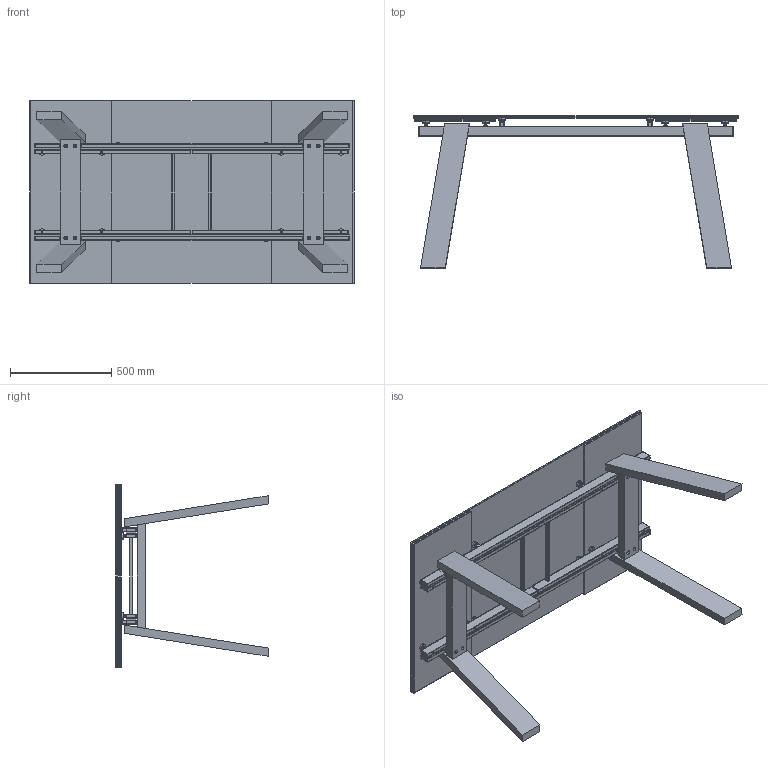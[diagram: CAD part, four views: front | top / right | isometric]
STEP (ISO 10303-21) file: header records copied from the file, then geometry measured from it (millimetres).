
FILE_DESCRIPTION (( 'STEP AP214' ), '1' );
FILE_NAME ('GIOVE.STEP', '2021-03-15T08:42:52', ( '' ), ( '' ), 'SwSTEP 2.0', 'SolidWorks 2018', '' );
FILE_SCHEMA (( 'AUTOMOTIVE_DESIGN' ));
Length unit declared in the file: millimetre
Products named in the file (16): T0603 S1 0301_T0603 S1 0301; piano_T0603 S1 0001_C; FLANGIA; T0603 S1 0202_T0603 S1 0202; REGOLATORE ALLUNGA; T0603 S1 0201_T0603 S1 0201; GIOVE; T1501 S; T0603 S1 0301_T0603 S1 0401; ruota teflon; T1502 S; gamba; REGOLATORE TOP
Assembly tree (36 placements, depth 5):
  GIOVE
    piano_T0603 S1 0001_C
      T0603 S1 0301_T0603 S1 0301
        T0603 S1 0301_T0603 S1 0301
        FLANGIA  x4
      T0603 S1 0201_T0603 S1 0201  x2
      REGOLATORE TOP  x4
      T1502 S  x2
      T1501 S  x2
      T0603 S1 0202_T0603 S1 0202  x2
        T0603 S1 0202_T0603 S1 0202
        REGOLATORE ALLUNGA
        ruota teflon
        T0603 S1 0301_T0603 S1 0401
          T0603 S1 0301_T0603 S1 0401
          FLANGIA  x4
    gamba  x2
Bounding box: 1600 x 750 x 900 mm (x, y, z)
Volume: 42435324.9 mm3; surface area: 7830729.1 mm2
Topology: 45 solids, 53 shells, 11194 faces, 32744 edges, 21720 vertices
Faces by surface type: plane 10558, cylinder 476, cone 72, torus 72, sphere 16
Entity records: 68526 total; most frequent: CARTESIAN_POINT 14614, ORIENTED_EDGE 11792, DIRECTION 10162, EDGE_CURVE 5896, LINE 4030, VECTOR 4030, VERTEX_POINT 3886, AXIS2_PLACEMENT_3D 3066
